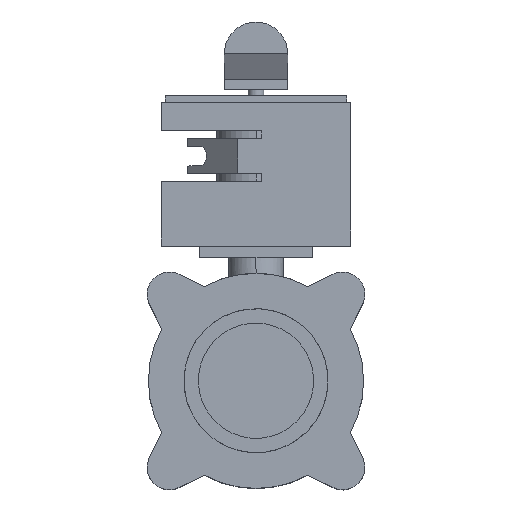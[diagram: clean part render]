
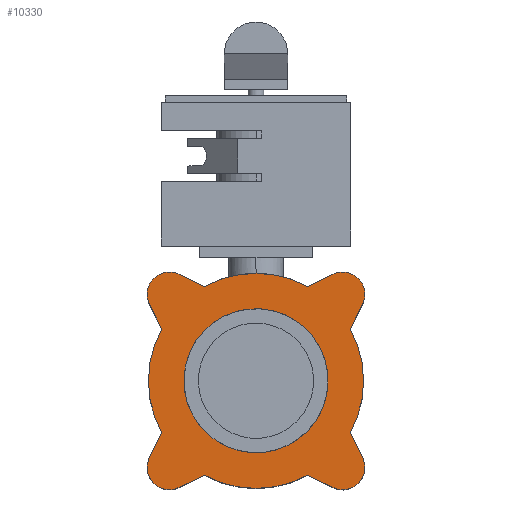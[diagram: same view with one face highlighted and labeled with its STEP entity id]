
A CAD part, top view. The second image highlights one B-rep face of the part: STEP entity #10330.
In plain terms, the highlighted planar face has unit normal (0, 0, 1) as drawn and (0, 1, 0) by its records, which use the part's own axes.
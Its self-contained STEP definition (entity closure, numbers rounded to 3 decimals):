
#1650=CARTESIAN_POINT('',(0.,13.,-41.492));
#1660=DIRECTION('',(-0.946,0.,0.326));
#1670=VECTOR('',#1660,1.);
#1680=LINE('',#1650,#1670);
#1690=CARTESIAN_POINT('',(-65.288,13.,-19.012));
#1700=VERTEX_POINT('',#1690);
#1710=CARTESIAN_POINT('',(-82.058,13.,-13.237));
#1720=VERTEX_POINT('',#1710);
#1730=EDGE_CURVE('',#1700,#1720,#1680,.T.);
#1960=CARTESIAN_POINT('',(77.5,13.,0.));
#1970=DIRECTION('',(0.,-1.,0.));
#1980=DIRECTION('',(0.,0.,-1.));
#1990=AXIS2_PLACEMENT_3D('',#1960,#1970,#1980);
#2000=CIRCLE('',#1990,14.);
#2010=CARTESIAN_POINT('',(82.058,13.,-13.237));
#2020=VERTEX_POINT('',#2010);
#2030=CARTESIAN_POINT('',(82.058,13.,13.237));
#2040=VERTEX_POINT('',#2030);
#2050=EDGE_CURVE('',#2020,#2040,#2000,.T.);
#2280=CARTESIAN_POINT('',(0.,13.,77.5));
#2290=DIRECTION('',(0.,-1.,0.));
#2300=DIRECTION('',(0.,0.,-1.));
#2310=AXIS2_PLACEMENT_3D('',#2280,#2290,#2300);
#2320=CIRCLE('',#2310,14.);
#2330=CARTESIAN_POINT('',(13.237,13.,82.058));
#2340=VERTEX_POINT('',#2330);
#2350=CARTESIAN_POINT('',(-13.237,13.,82.058));
#2360=VERTEX_POINT('',#2350);
#2370=EDGE_CURVE('',#2340,#2360,#2320,.T.);
#2600=CARTESIAN_POINT('',(-77.5,13.,0.));
#2610=DIRECTION('',(0.,-1.,0.));
#2620=DIRECTION('',(0.,0.,-1.));
#2630=AXIS2_PLACEMENT_3D('',#2600,#2610,#2620);
#2640=CIRCLE('',#2630,14.);
#2650=CARTESIAN_POINT('',(-82.058,13.,13.237));
#2660=VERTEX_POINT('',#2650);
#2670=EDGE_CURVE('',#2660,#1720,#2640,.T.);
#4130=CARTESIAN_POINT('',(0.,13.,-41.492));
#4140=DIRECTION('',(0.946,0.,0.326));
#4150=VECTOR('',#4140,1.);
#4160=LINE('',#4130,#4150);
#4170=CARTESIAN_POINT('',(65.288,13.,-19.012));
#4180=VERTEX_POINT('',#4170);
#4190=EDGE_CURVE('',#4180,#2020,#4160,.T.);
#4370=CARTESIAN_POINT('',(-41.492,13.,0.));
#4380=DIRECTION('',(0.326,0.,0.946));
#4390=VECTOR('',#4380,1.);
#4400=LINE('',#4370,#4390);
#4410=CARTESIAN_POINT('',(-19.012,13.,65.288));
#4420=VERTEX_POINT('',#4410);
#4430=EDGE_CURVE('',#4420,#2360,#4400,.T.);
#5010=CARTESIAN_POINT('',(0.,13.,41.492));
#5020=DIRECTION('',(0.946,0.,-0.326));
#5030=VECTOR('',#5020,1.);
#5040=LINE('',#5010,#5030);
#5050=CARTESIAN_POINT('',(65.288,13.,19.012));
#5060=VERTEX_POINT('',#5050);
#5070=EDGE_CURVE('',#5060,#2040,#5040,.T.);
#5250=CARTESIAN_POINT('',(0.,13.,41.492));
#5260=DIRECTION('',(0.946,0.,0.326));
#5270=VECTOR('',#5260,1.);
#5280=LINE('',#5250,#5270);
#5290=CARTESIAN_POINT('',(-65.288,13.,19.012));
#5300=VERTEX_POINT('',#5290);
#5310=EDGE_CURVE('',#2660,#5300,#5280,.T.);
#7500=CARTESIAN_POINT('',(-13.237,13.,-82.058));
#7510=VERTEX_POINT('',#7500);
#7590=CARTESIAN_POINT('',(13.237,13.,-82.058));
#7600=VERTEX_POINT('',#7590);
#7630=CARTESIAN_POINT('',(0.,13.,-77.5));
#7640=DIRECTION('',(0.,-1.,0.));
#7650=DIRECTION('',(0.,0.,-1.));
#7660=AXIS2_PLACEMENT_3D('',#7630,#7640,#7650);
#7670=CIRCLE('',#7660,14.);
#7680=EDGE_CURVE('',#7510,#7600,#7670,.T.);
#8120=CARTESIAN_POINT('',(41.492,13.,0.));
#8130=DIRECTION('',(0.326,0.,0.946));
#8140=VECTOR('',#8130,1.);
#8150=LINE('',#8120,#8140);
#8160=CARTESIAN_POINT('',(19.012,13.,-65.288));
#8170=VERTEX_POINT('',#8160);
#8180=EDGE_CURVE('',#7600,#8170,#8150,.T.);
#9060=CARTESIAN_POINT('',(0.,13.,0.));
#9070=DIRECTION('',(0.,-1.,0.));
#9080=DIRECTION('',(0.,0.,-1.));
#9090=AXIS2_PLACEMENT_3D('',#9060,#9070,#9080);
#9100=CIRCLE('',#9090,68.);
#9110=EDGE_CURVE('',#8170,#4180,#9100,.T.);
#9270=CARTESIAN_POINT('',(19.012,13.,65.288));
#9280=VERTEX_POINT('',#9270);
#9310=CARTESIAN_POINT('',(0.,13.,0.));
#9320=DIRECTION('',(0.,-1.,0.));
#9330=DIRECTION('',(0.,0.,-1.));
#9340=AXIS2_PLACEMENT_3D('',#9310,#9320,#9330);
#9350=CIRCLE('',#9340,68.);
#9360=EDGE_CURVE('',#5060,#9280,#9350,.T.);
#9490=CARTESIAN_POINT('',(0.,13.,0.));
#9500=DIRECTION('',(0.,-1.,0.));
#9510=DIRECTION('',(0.,0.,-1.));
#9520=AXIS2_PLACEMENT_3D('',#9490,#9500,#9510);
#9530=CIRCLE('',#9520,68.);
#9540=EDGE_CURVE('',#4420,#5300,#9530,.T.);
#9700=CARTESIAN_POINT('',(-19.012,13.,-65.288));
#9710=VERTEX_POINT('',#9700);
#9740=CARTESIAN_POINT('',(0.,13.,0.));
#9750=DIRECTION('',(0.,-1.,0.));
#9760=DIRECTION('',(0.,0.,-1.));
#9770=AXIS2_PLACEMENT_3D('',#9740,#9750,#9760);
#9780=CIRCLE('',#9770,68.);
#9790=EDGE_CURVE('',#1700,#9710,#9780,.T.);
#9850=CARTESIAN_POINT('',(0.,13.,0.));
#9860=DIRECTION('',(0.,1.,0.));
#9870=DIRECTION('',(0.,0.,1.));
#9880=AXIS2_PLACEMENT_3D('',#9850,#9860,#9870);
#9890=PLANE('',#9880);
#9900=ORIENTED_EDGE('',*,*,#2050,.F.);
#9910=ORIENTED_EDGE('',*,*,#5070,.T.);
#9920=ORIENTED_EDGE('',*,*,#9360,.F.);
#9930=CARTESIAN_POINT('',(41.492,13.,0.));
#9940=DIRECTION('',(0.326,0.,-0.946));
#9950=VECTOR('',#9940,1.);
#9960=LINE('',#9930,#9950);
#9970=EDGE_CURVE('',#2340,#9280,#9960,.T.);
#9980=ORIENTED_EDGE('',*,*,#9970,.T.);
#9990=ORIENTED_EDGE('',*,*,#2370,.F.);
#10000=ORIENTED_EDGE('',*,*,#4430,.T.);
#10010=ORIENTED_EDGE('',*,*,#9540,.F.);
#10020=ORIENTED_EDGE('',*,*,#5310,.T.);
#10030=ORIENTED_EDGE('',*,*,#2670,.F.);
#10040=ORIENTED_EDGE('',*,*,#1730,.T.);
#10050=ORIENTED_EDGE('',*,*,#9790,.F.);
#10060=CARTESIAN_POINT('',(-41.492,13.,0.));
#10070=DIRECTION('',(0.326,0.,-0.946));
#10080=VECTOR('',#10070,1.);
#10090=LINE('',#10060,#10080);
#10100=EDGE_CURVE('',#9710,#7510,#10090,.T.);
#10110=ORIENTED_EDGE('',*,*,#10100,.F.);
#10120=ORIENTED_EDGE('',*,*,#7680,.F.);
#10130=ORIENTED_EDGE('',*,*,#8180,.F.);
#10140=ORIENTED_EDGE('',*,*,#9110,.F.);
#10150=ORIENTED_EDGE('',*,*,#4190,.F.);
#10160=EDGE_LOOP('',(#10150,#10140,#10130,#10120,#10110,#10050,#10040,
#10030,#10020,#10010,#10000,#9990,#9980,#9920,#9910,#9900));
#10170=FACE_OUTER_BOUND('',#10160,.T.);
#10180=CARTESIAN_POINT('',(0.,13.,
0.));
#10190=DIRECTION('',(0.,1.,0.));
#10200=DIRECTION('',(-0.859,0.,
-0.512));
#10210=AXIS2_PLACEMENT_3D('',#10180,#10190,#10200);
#10220=CIRCLE('',#10210,38.05);
#10230=CARTESIAN_POINT('',(-32.688,13.,
-19.475));
#10240=VERTEX_POINT('',#10230);
#10250=CARTESIAN_POINT('',(32.688,13.,
19.475));
#10260=VERTEX_POINT('',#10250);
#10270=EDGE_CURVE('',#10240,#10260,#10220,.T.);
#10280=ORIENTED_EDGE('',*,*,#10270,.F.);
#10290=EDGE_CURVE('',#10260,#10240,#10220,.T.);
#10300=ORIENTED_EDGE('',*,*,#10290,.F.);
#10310=EDGE_LOOP('',(#10300,#10280));
#10320=FACE_BOUND('',#10310,.T.);
#10330=ADVANCED_FACE('',(#10170,#10320),#9890,.T.);
